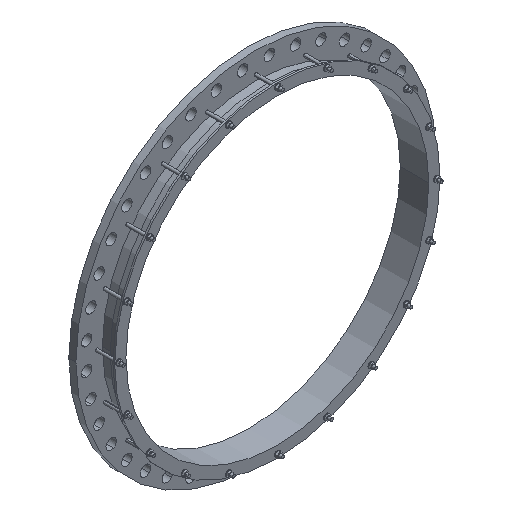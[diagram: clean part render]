
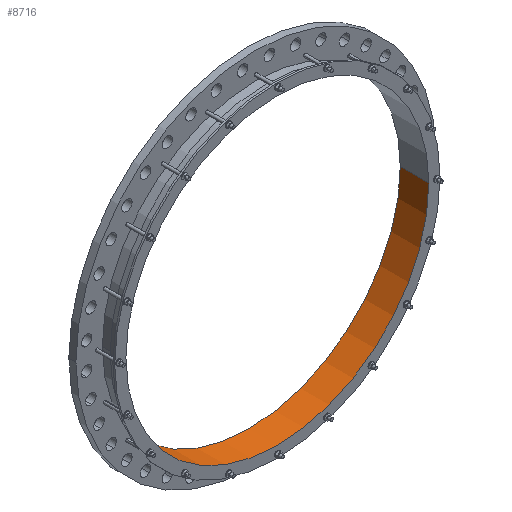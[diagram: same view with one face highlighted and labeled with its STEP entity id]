
A CAD part, isometric view. The second image highlights one B-rep face of the part: STEP entity #8716.
In plain terms, the highlighted cylindrical face has radius 812 mm (diameter 1624 mm), a partial arc.
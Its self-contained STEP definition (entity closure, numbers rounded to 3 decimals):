
#7=CARTESIAN_POINT('',(0.,38.,0.));
#8=DIRECTION('',(0.,1.,0.));
#9=DIRECTION('',(1.,0.,0.));
#10=AXIS2_PLACEMENT_3D('',#7,#8,#9);
#2379=CARTESIAN_POINT('',(0.,-115.,0.));
#2380=DIRECTION('',(0.,1.,0.));
#2381=DIRECTION('',(1.,0.,0.));
#2382=AXIS2_PLACEMENT_3D('',#2379,#2380,#2381);
#2384=DIRECTION('',(0.,1.,0.));
#2385=VECTOR('',#2384,153.);
#2386=CARTESIAN_POINT('',(812.,-115.,0.));
#2387=LINE('',#2386,#2385);
#2388=DIRECTION('',(0.,1.,0.));
#2389=VECTOR('',#2388,153.);
#2390=CARTESIAN_POINT('',(-812.,-115.,0.));
#2391=LINE('',#2390,#2389);
#6128=CARTESIAN_POINT('',(812.,-115.,0.));
#6129=CARTESIAN_POINT('',(812.,38.,0.));
#6130=VERTEX_POINT('',#6128);
#6131=VERTEX_POINT('',#6129);
#6140=CARTESIAN_POINT('',(-812.,-115.,0.));
#6141=CARTESIAN_POINT('',(-812.,38.,0.));
#6142=VERTEX_POINT('',#6140);
#6143=VERTEX_POINT('',#6141);
#8703=CARTESIAN_POINT('',(0.,-122.65,0.));
#8704=DIRECTION('',(0.,1.,0.));
#8705=DIRECTION('',(-1.,0.,0.));
#8706=AXIS2_PLACEMENT_3D('',#8703,#8704,#8705);
#8707=CYLINDRICAL_SURFACE('',#8706,812.);
#8709=ORIENTED_EDGE('',*,*,#8708,.F.);
#8710=ORIENTED_EDGE('',*,*,#8578,.T.);
#8712=ORIENTED_EDGE('',*,*,#8711,.T.);
#8713=ORIENTED_EDGE('',*,*,#7497,.F.);
#8714=EDGE_LOOP('',(#8709,#8710,#8712,#8713));
#8715=FACE_OUTER_BOUND('',#8714,.F.);
#8716=ADVANCED_FACE('',(#8715),#8707,.F.);
#11=CIRCLE('',#10,812.);
#2383=CIRCLE('',#2382,812.);
#7497=EDGE_CURVE('',#6131,#6143,#11,.T.);
#8578=EDGE_CURVE('',#6130,#6142,#2383,.T.);
#8708=EDGE_CURVE('',#6130,#6131,#2387,.T.);
#8711=EDGE_CURVE('',#6142,#6143,#2391,.T.);
